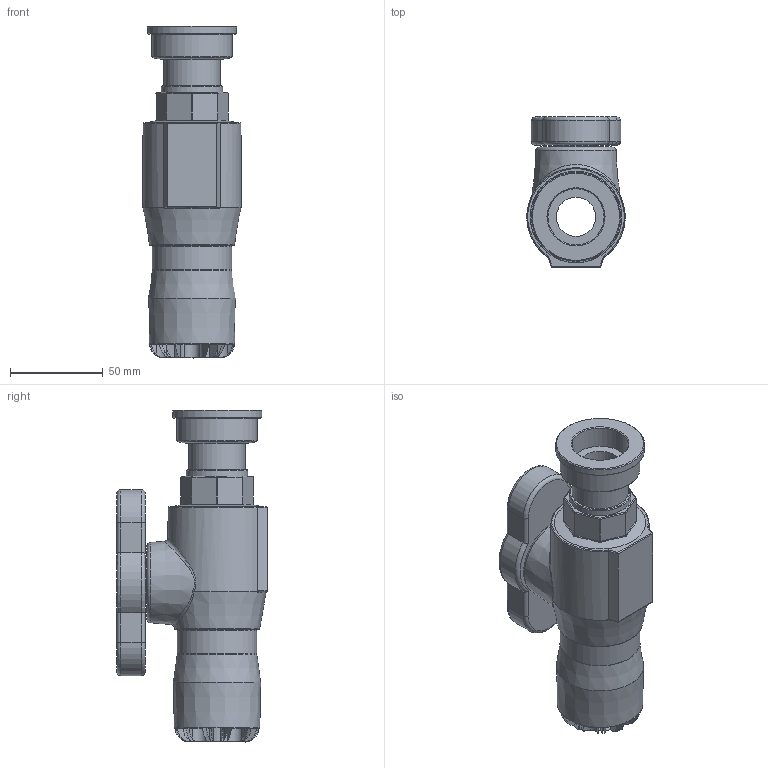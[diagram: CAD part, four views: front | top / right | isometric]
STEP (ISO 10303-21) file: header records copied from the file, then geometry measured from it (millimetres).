
FILE_DESCRIPTION(/* description */ ('PA Ball Valve Series 1 25mm x Free Nut Female 1'''''),/* implementation_level */ '2;1');
FILE_NAME(/* name */ 'C:\Dropbox\KIMPROJECTS-Inventor 2019\99-16-3568-Processing\S1\0371016\0371016S00025010_0371016SF0025010.stp',/* time_stamp */ '2022-04-18T19:44:16+03:00',/* author */ ('Lenora'),/* organization */ (''),/* preprocessor_version */ 'ST-DEVELOPER v17.2',/* originating_system */ 'Autodesk Inventor 2019',/* authorisation */ '');
FILE_SCHEMA (('AUTOMOTIVE_DESIGN { 1 0 10303 214 3 1 1 }'));
Length unit declared in the file: millimetre
Products named in the file (1): 0371016S00025010_0371016SF0025010
Bounding box: 53 x 81 x 179 mm (x, y, z)
Volume: 285935.6 mm3; surface area: 58012.8 mm2
Topology: 1 solids, 1 shells, 232 faces, 589 edges, 366 vertices
Faces by surface type: plane 86, cylinder 78, bspline 27, torus 22, cone 11, sphere 8
Full cylindrical faces by diameter (mm): 21.204 x1, 22.375 x1, 25 x2, 27 x1, 30.291 x2, 33.32 x1, 42.93 x1, 43.2 x1, 48 x1
Entity records: 8201 total; most frequent: CARTESIAN_POINT 2728, DIRECTION 1153, ORIENTED_EDGE 1148, EDGE_CURVE 574, AXIS2_PLACEMENT_3D 486, VERTEX_POINT 356, CIRCLE 276, EDGE_LOOP 246
